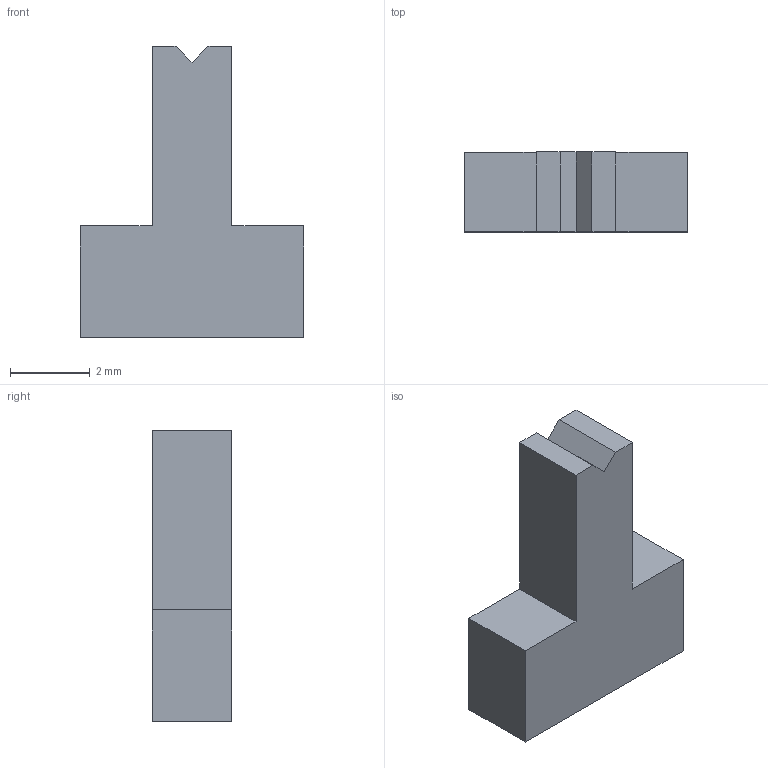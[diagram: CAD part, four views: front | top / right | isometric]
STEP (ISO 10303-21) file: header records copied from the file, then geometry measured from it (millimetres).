
FILE_DESCRIPTION(/* description */ ('STEP AP242 Edition 2','CAx-IF Rec.Pracs.---Representation and Presentation of Product Manufacturing Information (PMI)---4.0---2014-10-13','CAx-IF Rec.Pracs.---3D Tessellated Geometry---0.4---2014-09-14','2;1','CAx-IF Rec.Pracs.---User Defined Attributes---1.5---2016-08-15'),/* implementation_level */ '2;1');
FILE_NAME(/* name */ 'Part Studio 1 - Surface 10',/* time_stamp */ '2026-11-25T23:28:51Z',/* author */ (''),/* organization */ (''),/* preprocessor_version */ 'ST-DEVELOPER v20',/* originating_system */ 'ONSHAPE BY PTC INC, 1.224',/* authorisation */ ' ');
FILE_SCHEMA (('AP242_MANAGED_MODEL_BASED_3D_ENGINEERING_MIM_LF { 1 0 10303 442 3 1 4 }'));
Length unit declared in the file: metre
Products named in the file (1): SW_Slide_SPDT_Straight_CK_OS102011MS2Q
Bounding box: 5.6 x 2 x 7.3 mm (x, y, z)
Volume: 49 mm3; surface area: 101.3 mm2
Topology: 1 solids, 1 shells, 13 faces, 33 edges, 22 vertices
Faces by surface type: plane 13
Entity records: 400 total; most frequent: CARTESIAN_POINT 69, ORIENTED_EDGE 66, DIRECTION 61, EDGE_CURVE 33, LINE 33, VECTOR 33, VERTEX_POINT 22, AXIS2_PLACEMENT_3D 14
